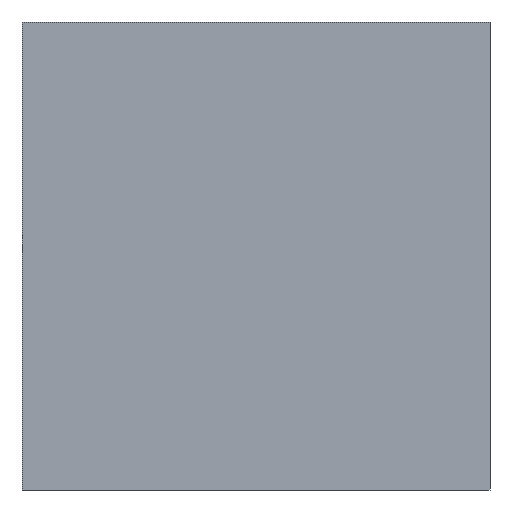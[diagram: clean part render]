
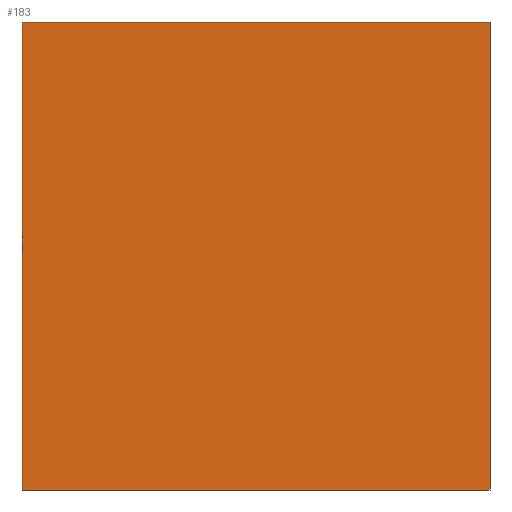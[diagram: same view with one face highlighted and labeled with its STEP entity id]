
A CAD part, left-side view. The second image highlights one B-rep face of the part: STEP entity #183.
In plain terms, the highlighted planar face has unit normal (-1, 0, 0).
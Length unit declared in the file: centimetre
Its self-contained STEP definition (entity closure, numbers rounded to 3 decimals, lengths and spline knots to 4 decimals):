
#6 = ORIENTED_EDGE ( 'NONE', *, *, #110, .T. ) ;
#12 = DIRECTION ( 'NONE',  ( 0., 0., -1. ) ) ;
#17 = LINE ( 'NONE', #613, #187 ) ;
#18 = CARTESIAN_POINT ( 'NONE',  ( 0., 0., 1000. ) ) ;
#21 = DIRECTION ( 'NONE',  ( 1., 0., 0. ) ) ;
#26 = ORIENTED_EDGE ( 'NONE', *, *, #225, .T. ) ;
#70 = CARTESIAN_POINT ( 'NONE',  ( 0., 0., 1000. ) ) ;
#90 = AXIS2_PLACEMENT_3D ( 'NONE', #171, #21, #121 ) ;
#108 = ORIENTED_EDGE ( 'NONE', *, *, #644, .F. ) ;
#110 = EDGE_CURVE ( 'NONE', #456, #518, #17, .T. ) ;
#112 = DIRECTION ( 'NONE',  ( 0., -1., 0. ) ) ;
#121 = DIRECTION ( 'NONE',  ( 0., 0., -1. ) ) ;
#163 = CARTESIAN_POINT ( 'NONE',  ( 0., 1000., 0. ) ) ;
#171 = CARTESIAN_POINT ( 'NONE',  ( 0., 1000., 1000. ) ) ;
#172 = LINE ( 'NONE', #18, #507 ) ;
#178 = CARTESIAN_POINT ( 'NONE',  ( 0., 1000., 1000. ) ) ;
#183 = ADVANCED_FACE ( 'NONE', ( #222 ), #662, .F. ) ;
#187 = VECTOR ( 'NONE', #112, 100. ) ;
#222 = FACE_OUTER_BOUND ( 'NONE', #523, .T. ) ;
#225 = EDGE_CURVE ( 'NONE', #232, #456, #550, .T. ) ;
#232 = VERTEX_POINT ( 'NONE', #659 ) ;
#402 = ORIENTED_EDGE ( 'NONE', *, *, #434, .F. ) ;
#412 = CARTESIAN_POINT ( 'NONE',  ( 0., 1000., 1000. ) ) ;
#434 = EDGE_CURVE ( 'NONE', #490, #518, #172, .T. ) ;
#456 = VERTEX_POINT ( 'NONE', #163 ) ;
#477 = CARTESIAN_POINT ( 'NONE',  ( 0., 0., 0. ) ) ;
#490 = VERTEX_POINT ( 'NONE', #70 ) ;
#507 = VECTOR ( 'NONE', #663, 100. ) ;
#518 = VERTEX_POINT ( 'NONE', #477 ) ;
#520 = VECTOR ( 'NONE', #12, 100. ) ;
#523 = EDGE_LOOP ( 'NONE', ( #6, #402, #108, #26 ) ) ;
#550 = LINE ( 'NONE', #178, #520 ) ;
#572 = LINE ( 'NONE', #412, #637 ) ;
#613 = CARTESIAN_POINT ( 'NONE',  ( 0., 1000., 0. ) ) ;
#637 = VECTOR ( 'NONE', #674, 100. ) ;
#644 = EDGE_CURVE ( 'NONE', #232, #490, #572, .T. ) ;
#659 = CARTESIAN_POINT ( 'NONE',  ( 0., 1000., 1000. ) ) ;
#662 = PLANE ( 'NONE',  #90 ) ;
#663 = DIRECTION ( 'NONE',  ( 0., 0., -1. ) ) ;
#674 = DIRECTION ( 'NONE',  ( 0., -1., 0. ) ) ;
